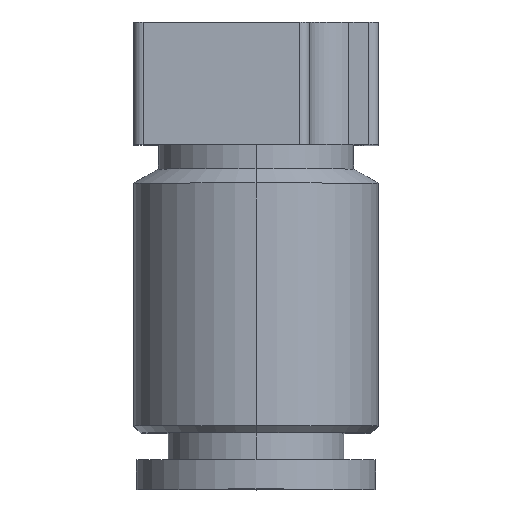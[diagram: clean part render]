
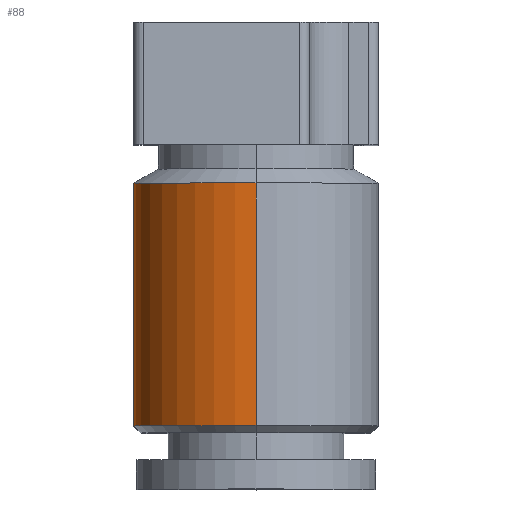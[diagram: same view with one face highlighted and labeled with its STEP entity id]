
A CAD part, top view. The second image highlights one B-rep face of the part: STEP entity #88.
In plain terms, the highlighted cylindrical face has radius 5 mm (diameter 10 mm), a partial arc.
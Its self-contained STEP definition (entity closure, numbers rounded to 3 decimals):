
#88=ADVANCED_FACE('',(#603),#602,.T.);
#602=CYLINDRICAL_SURFACE('',#1101,5.);
#603=FACE_OUTER_BOUND('',#1102,.T.);
#1098=CARTESIAN_POINT('',(-3.8,-1006.,-6.9));
#1099=DIRECTION('',(0.,-1.,0.));
#1100=DIRECTION('',(0.,0.,1.));
#1101=AXIS2_PLACEMENT_3D('',#1098,#1099,#1100);
#1102=EDGE_LOOP('',(#1540,#1541,#1542,#1543));
#1540=ORIENTED_EDGE('',*,*,#1756,.T.);
#1541=ORIENTED_EDGE('',*,*,#1757,.F.);
#1542=ORIENTED_EDGE('',*,*,#1758,.T.);
#1543=ORIENTED_EDGE('',*,*,#1759,.T.);
#1756=EDGE_CURVE('',#2646,#2647,#2648,.T.);
#1757=EDGE_CURVE('',#2654,#2647,#2655,.T.);
#1758=EDGE_CURVE('',#2654,#2661,#2662,.T.);
#1759=EDGE_CURVE('',#2661,#2646,#2668,.T.);
#2646=VERTEX_POINT('',#3358);
#2647=VERTEX_POINT('',#3359);
#2648=CIRCLE('',#3363,5.);
#2654=VERTEX_POINT('',#3364);
#2655=(BOUNDED_CURVE() B_SPLINE_CURVE(1,(#3365,#3366),.UNSPECIFIED.,.F.,.F.) B_SPLINE_CURVE_WITH_KNOTS((2,2),(0.083,0.917),.UNSPECIFIED.) CURVE() GEOMETRIC_REPRESENTATION_ITEM() RATIONAL_B_SPLINE_CURVE((1.,1.)) REPRESENTATION_ITEM('') );
#2661=VERTEX_POINT('',#3367);
#2662=CIRCLE('',#3371,5.);
#2668=(BOUNDED_CURVE() B_SPLINE_CURVE(1,(#3372,#3373),.UNSPECIFIED.,.F.,.F.) B_SPLINE_CURVE_WITH_KNOTS((2,2),(0.083,0.917),.UNSPECIFIED.) CURVE() GEOMETRIC_REPRESENTATION_ITEM() RATIONAL_B_SPLINE_CURVE((0.75,0.75)) REPRESENTATION_ITEM('') );
#3358=CARTESIAN_POINT('',(-3.8,-16.5,-11.9));
#3359=CARTESIAN_POINT('',(-3.8,-16.5,-1.9));
#3360=CARTESIAN_POINT('',(-3.8,-16.5,-6.9));
#3361=DIRECTION('',(0.,1.,0.));
#3362=DIRECTION('',(0.,0.,-1.));
#3363=AXIS2_PLACEMENT_3D('',#3360,#3361,#3362);
#3364=CARTESIAN_POINT('',(-3.8,-6.577,-1.9));
#3365=CARTESIAN_POINT('',(-3.8,-6.577,-1.9));
#3366=CARTESIAN_POINT('',(-3.8,-16.5,-1.9));
#3367=CARTESIAN_POINT('',(-3.8,-6.577,-11.9));
#3368=CARTESIAN_POINT('',(-3.8,-6.577,-6.9));
#3369=DIRECTION('',(0.,-1.,0.));
#3370=DIRECTION('',(0.,0.,-1.));
#3371=AXIS2_PLACEMENT_3D('',#3368,#3369,#3370);
#3372=CARTESIAN_POINT('',(-3.8,-6.577,-11.9));
#3373=CARTESIAN_POINT('',(-3.8,-16.5,-11.9));
